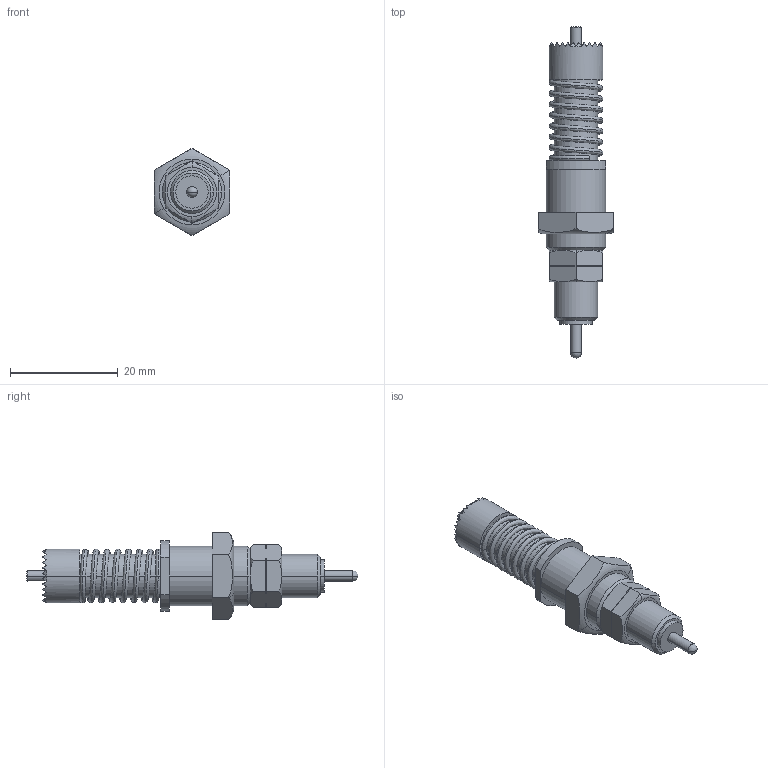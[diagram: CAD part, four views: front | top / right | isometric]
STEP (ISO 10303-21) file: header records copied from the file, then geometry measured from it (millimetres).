
FILE_DESCRIPTION (( 'STEP AP214' ), '1' );
FILE_NAME ('PK9HH-10.STEP', '2022-10-05T10:51:58', ( '' ), ( '' ), 'SwSTEP 2.0', 'SolidWorks 2022', '' );
FILE_SCHEMA (( 'AUTOMOTIVE_DESIGN' ));
Length unit declared in the file: millimetre
Products named in the file (4): M8 NUT; PK9HH-10; M11 NUT
Assembly tree (4 placements, depth 2):
  PK9HH-10
    PK9HH-10
    M8 NUT  x2
    M11 NUT
Bounding box: 14 x 61.5 x 16.17 mm (x, y, z)
Volume: 4217.4 mm3; surface area: 4437.9 mm2
Topology: 8 solids, 8 shells, 569 faces, 1170 edges, 633 vertices
Faces by surface type: plane 527, cylinder 24, torus 10, cone 4, sphere 2, bspline 2
Entity records: 16494 total; most frequent: CARTESIAN_POINT 5179, ORIENTED_EDGE 2276, DIRECTION 2190, EDGE_CURVE 1138, LINE 894, VECTOR 894, AXIS2_PLACEMENT_3D 648, VERTEX_POINT 613
